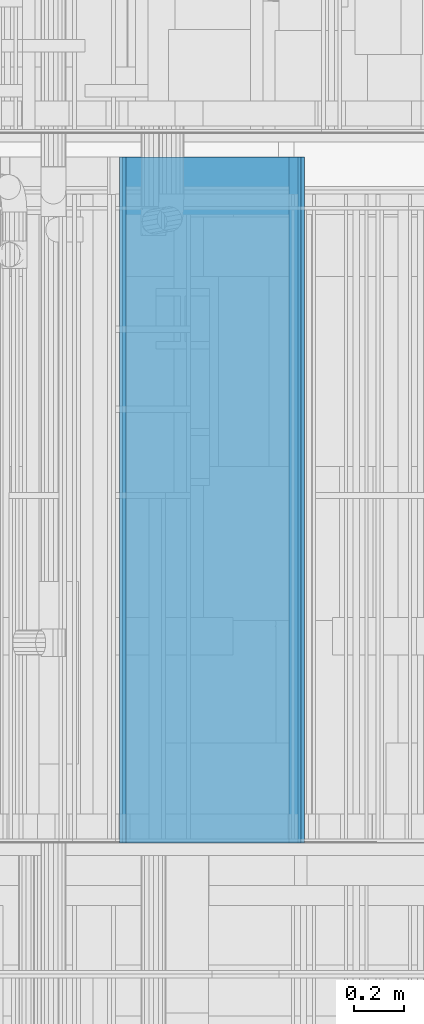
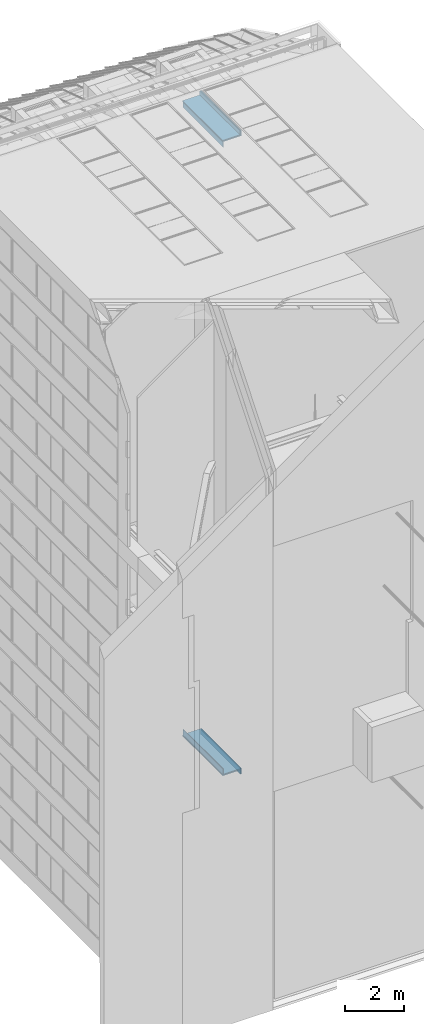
# One storey, part 121 of 583: 14 building element parts, 6 elements without a shape of their own.
"""IFC2X3 building model written with IfcOpenShell, lengths in metres."""

from ifc_helpers import new_model, entity, si_unit, converted_unit, derived_unit, money_unit, direction, frame, frame_2d, origin_with_axes, place, context, subcontext, project, spatial, polyline, rectangle, outline, extrude, material, type_object, element, aggregate, save


model = new_model("IFC2X3")

# Units and contexts
model_context = context("Model", 3, precision=1e-05, world=origin_with_axes(), true_north=direction((0.0, 1.0)))
body_context = subcontext(model_context, "Body", "Model", "MODEL_VIEW", scale=1.0)
ifc_project = project(units=[si_unit("LENGTHUNIT", "METRE"), si_unit("AREAUNIT", "SQUARE_METRE"), si_unit("VOLUMEUNIT", "CUBIC_METRE"), si_unit("ABSORBEDDOSEUNIT", "GRAY"), si_unit("AMOUNTOFSUBSTANCEUNIT", "MOLE"), si_unit("DOSEEQUIVALENTUNIT", "SIEVERT"), si_unit("ELECTRICCAPACITANCEUNIT", "FARAD"), si_unit("ELECTRICCHARGEUNIT", "COULOMB"), si_unit("ELECTRICCONDUCTANCEUNIT", "SIEMENS"), si_unit("ELECTRICCURRENTUNIT", "AMPERE"), si_unit("ELECTRICRESISTANCEUNIT", "OHM"), si_unit("ELECTRICVOLTAGEUNIT", "VOLT"), si_unit("ENERGYUNIT", "JOULE"), si_unit("FORCEUNIT", "NEWTON"), si_unit("FREQUENCYUNIT", "HERTZ"), si_unit("ILLUMINANCEUNIT", "LUX"), si_unit("INDUCTANCEUNIT", "HENRY"), si_unit("LUMINOUSFLUXUNIT", "LUMEN"), si_unit("LUMINOUSINTENSITYUNIT", "CANDELA"), si_unit("MAGNETICFLUXDENSITYUNIT", "TESLA"), si_unit("MAGNETICFLUXUNIT", "WEBER"), si_unit("MASSUNIT", "GRAM"), converted_unit("PLANEANGLEUNIT", "degree", entity("IfcReal", 0.0174532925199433), si_unit("PLANEANGLEUNIT", "RADIAN"), dimensions=[0, 0, 0, 0, 0, 0, 0]), si_unit("POWERUNIT", "WATT"), si_unit("PRESSUREUNIT", "PASCAL"), si_unit("RADIOACTIVITYUNIT", "BECQUEREL"), si_unit("SOLIDANGLEUNIT", "STERADIAN"), si_unit("THERMODYNAMICTEMPERATUREUNIT", "KELVIN"), si_unit("TIMEUNIT", "SECOND"), derived_unit("ACCELERATIONUNIT", [(si_unit("LENGTHUNIT", "METRE"), 1), (si_unit("TIMEUNIT", "SECOND"), -2)]), derived_unit("ANGULARVELOCITYUNIT", [(converted_unit("PLANEANGLEUNIT", "degree", entity("IfcReal", 0.0174532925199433), si_unit("PLANEANGLEUNIT", "RADIAN"), dimensions=[0, 0, 0, 0, 0, 0, 0]), 1), (si_unit("TIMEUNIT", "SECOND"), -1)]), derived_unit("CURVATUREUNIT", [(converted_unit("PLANEANGLEUNIT", "degree", entity("IfcReal", 0.0174532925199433), si_unit("PLANEANGLEUNIT", "RADIAN"), dimensions=[0, 0, 0, 0, 0, 0, 0]), 1), (si_unit("LENGTHUNIT", "METRE"), -1)]), derived_unit("DYNAMICVISCOSITYUNIT", [(si_unit("PRESSUREUNIT", "PASCAL"), 1), (si_unit("TIMEUNIT", "SECOND"), 1)]), derived_unit("HEATFLUXDENSITYUNIT", [(si_unit("POWERUNIT", "WATT"), 1), (si_unit("LENGTHUNIT", "METRE"), -2)]), derived_unit("HEATINGVALUEUNIT", [(si_unit("ENERGYUNIT", "JOULE"), 1), (si_unit("MASSUNIT", "GRAM"), -1)]), derived_unit("INTEGERCOUNTRATEUNIT", [(si_unit("TIMEUNIT", "SECOND"), -1)]), derived_unit("IONCONCENTRATIONUNIT", [(si_unit("MASSUNIT", "GRAM"), 1), (si_unit("VOLUMEUNIT", "CUBIC_METRE"), -1)]), derived_unit("ISOTHERMALMOISTURECAPACITYUNIT", [(si_unit("VOLUMEUNIT", "CUBIC_METRE"), 1), (si_unit("MASSUNIT", "GRAM"), -1)]), derived_unit("KINEMATICVISCOSITYUNIT", [(si_unit("AREAUNIT", "SQUARE_METRE"), 1), (si_unit("TIMEUNIT", "SECOND"), -1)]), derived_unit("LINEARFORCEUNIT", [(si_unit("FORCEUNIT", "NEWTON"), 1), (si_unit("LENGTHUNIT", "METRE"), -1)]), derived_unit("LINEARMOMENTUNIT", [(si_unit("FORCEUNIT", "NEWTON"), 1), (si_unit("LENGTHUNIT", "METRE"), -1)]), derived_unit("LINEARSTIFFNESSUNIT", [(si_unit("FORCEUNIT", "NEWTON"), 1), (si_unit("LENGTHUNIT", "METRE"), -1)]), derived_unit("LINEARVELOCITYUNIT", [(si_unit("LENGTHUNIT", "METRE"), 1), (si_unit("TIMEUNIT", "SECOND"), -1)]), derived_unit("LUMINOUSINTENSITYDISTRIBUTIONUNIT", [(si_unit("LUMINOUSINTENSITYUNIT", "CANDELA"), 1), (si_unit("LUMINOUSFLUXUNIT", "LUMEN"), -1)]), derived_unit("MASSDENSITYUNIT", [(si_unit("MASSUNIT", "GRAM"), 1), (si_unit("VOLUMEUNIT", "CUBIC_METRE"), -1)]), derived_unit("MASSFLOWRATEUNIT", [(si_unit("MASSUNIT", "GRAM"), 1), (si_unit("TIMEUNIT", "SECOND"), -1)]), derived_unit("MASSPERLENGTHUNIT", [(si_unit("MASSUNIT", "GRAM"), 1), (si_unit("LENGTHUNIT", "METRE"), -1)]), derived_unit("MODULUSOFELASTICITYUNIT", [(si_unit("FORCEUNIT", "NEWTON"), 1), (si_unit("AREAUNIT", "SQUARE_METRE"), -1)]), derived_unit("MODULUSOFLINEARSUBGRADEREACTIONUNIT", [(si_unit("FORCEUNIT", "NEWTON"), 1), (si_unit("LENGTHUNIT", "METRE"), -2)]), derived_unit("MODULUSOFROTATIONALSUBGRADEREACTIONUNIT", [(si_unit("FORCEUNIT", "NEWTON"), 1), (si_unit("LENGTHUNIT", "METRE"), 1)]), derived_unit("MODULUSOFSUBGRADEREACTIONUNIT", [(si_unit("FORCEUNIT", "NEWTON"), 1), (si_unit("VOLUMEUNIT", "CUBIC_METRE"), -1)]), derived_unit("MOISTUREDIFFUSIVITYUNIT", [(si_unit("VOLUMEUNIT", "CUBIC_METRE"), 1), (si_unit("TIMEUNIT", "SECOND"), -1)]), derived_unit("MOLECULARWEIGHTUNIT", [(si_unit("MASSUNIT", "GRAM"), 1), (si_unit("AMOUNTOFSUBSTANCEUNIT", "MOLE"), -1)]), derived_unit("PLANARFORCEUNIT", [(si_unit("FORCEUNIT", "NEWTON"), 1), (si_unit("LENGTHUNIT", "METRE"), -2)]), derived_unit("ROTATIONALFREQUENCYUNIT", [(si_unit("TIMEUNIT", "SECOND"), -1)]), derived_unit("ROTATIONALMASSUNIT", [(si_unit("MASSUNIT", "GRAM"), 1), (si_unit("LENGTHUNIT", "METRE"), 2)]), derived_unit("ROTATIONALSTIFFNESSUNIT", [(si_unit("FORCEUNIT", "NEWTON"), 1), (si_unit("LENGTHUNIT", "METRE"), 1), (converted_unit("PLANEANGLEUNIT", "degree", entity("IfcReal", 0.0174532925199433), si_unit("PLANEANGLEUNIT", "RADIAN"), dimensions=[0, 0, 0, 0, 0, 0, 0]), -1)]), derived_unit("SECTIONAREAINTEGRALUNIT", [(si_unit("LENGTHUNIT", "METRE"), 5)]), derived_unit("SECTIONMODULUSUNIT", [(si_unit("LENGTHUNIT", "METRE"), 3)]), derived_unit("SHEARMODULUSUNIT", [(si_unit("FORCEUNIT", "NEWTON"), 1), (si_unit("AREAUNIT", "SQUARE_METRE"), -1)]), derived_unit("SOUNDPOWERUNIT", [(si_unit("ENERGYUNIT", "JOULE"), 1), (si_unit("TIMEUNIT", "SECOND"), -1)]), derived_unit("SPECIFICHEATCAPACITYUNIT", [(si_unit("FORCEUNIT", "NEWTON"), 1), (si_unit("MASSUNIT", "GRAM"), -1), (si_unit("THERMODYNAMICTEMPERATUREUNIT", "KELVIN"), -1)]), derived_unit("TEMPERATUREGRADIENTUNIT", [(si_unit("THERMODYNAMICTEMPERATUREUNIT", "KELVIN"), 1), (si_unit("LENGTHUNIT", "METRE"), -1)]), derived_unit("THERMALADMITTANCEUNIT", [(si_unit("POWERUNIT", "WATT"), 1), (si_unit("AREAUNIT", "SQUARE_METRE"), -1), (si_unit("THERMODYNAMICTEMPERATUREUNIT", "KELVIN"), -1)]), derived_unit("THERMALCONDUCTANCEUNIT", [(si_unit("POWERUNIT", "WATT"), 1), (si_unit("LENGTHUNIT", "METRE"), -1), (si_unit("THERMODYNAMICTEMPERATUREUNIT", "KELVIN"), -1)]), derived_unit("THERMALEXPANSIONCOEFFICIENTUNIT", [(si_unit("THERMODYNAMICTEMPERATUREUNIT", "KELVIN"), -1)]), derived_unit("THERMALRESISTANCEUNIT", [(si_unit("AREAUNIT", "SQUARE_METRE"), 1), (si_unit("POWERUNIT", "WATT"), -1)]), derived_unit("THERMALTRANSMITTANCEUNIT", [(si_unit("POWERUNIT", "WATT"), 1), (si_unit("AREAUNIT", "SQUARE_METRE"), -1), (si_unit("THERMODYNAMICTEMPERATUREUNIT", "KELVIN"), -1)]), derived_unit("TORQUEUNIT", [(si_unit("FORCEUNIT", "NEWTON"), 1), (si_unit("LENGTHUNIT", "METRE"), 1)]), derived_unit("VAPORPERMEABILITYUNIT", [(si_unit("MASSUNIT", "GRAM"), 1), (si_unit("TIMEUNIT", "SECOND"), -1)]), derived_unit("VOLUMETRICFLOWRATEUNIT", [(si_unit("VOLUMEUNIT", "CUBIC_METRE"), 1), (si_unit("TIMEUNIT", "SECOND"), -1)]), derived_unit("WARPINGCONSTANTUNIT", [(si_unit("LENGTHUNIT", "METRE"), 6)]), derived_unit("WARPINGMOMENTUNIT", [(si_unit("FORCEUNIT", "NEWTON"), 1), (si_unit("LENGTHUNIT", "METRE"), 2)]), money_unit("GBP")], contexts=[model_context])

# Site, building, storey
site_placement = place(None, origin_with_axes())
site = spatial("IfcSite", under=ifc_project, at=site_placement, Name="Site", CompositionType="ELEMENT")
building_placement = place(site_placement, origin_with_axes())
building = spatial("IfcBuilding", under=site, at=building_placement, Name="Building01", CompositionType="ELEMENT")
storey_placement = place(building_placement, frame((0.0, 0.0, 20.78), z_axis=(0.0, 0.0, 1.0), x_axis=(1.0, 0.0, 0.0)))
storey = spatial("IfcBuildingStorey", under=building, at=storey_placement, Name="RL", CompositionType="ELEMENT", Elevation=20.78)

# Wall, building element part
wall_type = type_object("IfcWallType", Name="SHE_A-Walls_Type06f_ExternalWallInsulation_48+15mm", PredefinedType="NOTDEFINED")
wall_1_placement = place(storey_placement, frame((8.8, 12.13, -20.51), z_axis=(0.0, 1.0, 0.0), x_axis=(0.0, 0.0, 1.0)))
wall_1 = element("IfcWall", 1, at=wall_1_placement, inside=storey, type_object=wall_type, Name="6F", ObjectType="SHE_A-Walls_Type06f_ExternalWallInsulation_48+15mm")
ifc_material_1 = material(Name="A_BSUK_WallInternal_Finishes_Plasterboard")
building_element_part_1_placement = place(wall_1_placement, origin_with_axes())
building_element_part_1 = element("IfcBuildingElementPart", 2, at=building_element_part_1_placement, material=ifc_material_1, Name="3", context=body_context, shape_type="SweptSolid", body=[
    extrude(outline(polyline([(0.292178, 0.063), (0.048, 0.063), (0.048, 0.048), (0.277178, 0.048), (0.292178, 0.063)])), origin_with_axes(), (0.0, 0.0, 1.0), 2.74),
])
aggregate(wall_1, [building_element_part_1])

# Wall, building element parts
wall_2_placement = place(storey_placement, frame((9.51418, 12.13, -20.68), z_axis=(0.0, 1.0, 0.0), x_axis=(0.0, 0.0, 1.0)))
wall_2 = element("IfcWall", 3, at=wall_2_placement, inside=storey, type_object=wall_type, Name="6F", ObjectType="SHE_A-Walls_Type06f_ExternalWallInsulation_48+15mm")
ifc_material_2 = material(Name="A_BSUK_Insulation")
placement_1 = place(wall_2_placement, origin_with_axes())
building_element_part_2 = element("IfcBuildingElementPart", 4, at=placement_1, material=ifc_material_2, Name="1", context=body_context, shape_type="SweptSolid", body=[
    extrude(rectangle(XDim=0.17, YDim=0.036, at=frame_2d((0.085, 0.018), x_axis=(-1.0, 0.0))), origin_with_axes(), (0.0, 0.0, 1.0), 2.74),
])
building_element_part_3 = element("IfcBuildingElementPart", 5, at=placement_1, material=ifc_material_1, Name="3", context=body_context, shape_type="SweptSolid", body=[
    extrude(outline(polyline([(0.233, 0.063), (0.0, 0.063), (0.0, 0.048), (0.218, 0.048), (0.233, 0.063)])), origin_with_axes(), (0.0, 0.0, 1.0), 2.74),
])
building_element_part_4 = element("IfcBuildingElementPart", 6, at=placement_1, material=ifc_material_1, Name="4", context=body_context, shape_type="SweptSolid", body=[
    extrude(rectangle(XDim=0.206, YDim=0.012, at=frame_2d((0.103, 0.042), x_axis=(-1.0, 0.0))), origin_with_axes(), (0.0, 0.0, 1.0), 2.74),
])
aggregate(wall_2, [building_element_part_2, building_element_part_3, building_element_part_4])

wall_3_placement = place(storey_placement, frame((8.836, 12.13, -20.51), z_axis=(0.0, 1.0, 0.0), x_axis=(1.0, 0.0, 0.0)))
wall_3 = element("IfcWall", 7, at=wall_3_placement, inside=storey, type_object=wall_type, Name="6F", ObjectType="SHE_A-Walls_Type06f_ExternalWallInsulation_48+15mm")
placement_2 = place(wall_3_placement, origin_with_axes())
building_element_part_5 = element("IfcBuildingElementPart", 8, at=placement_2, material=ifc_material_2, Name="1", context=body_context, shape_type="SweptSolid", body=[
    extrude(rectangle(XDim=0.71418, YDim=0.036, at=frame_2d((0.35709, -0.018), x_axis=(-1.0, 0.0))), origin_with_axes(), (0.0, 0.0, 1.0), 2.74),
])
building_element_part_6 = element("IfcBuildingElementPart", 9, at=placement_2, material=ifc_material_1, Name="3", context=body_context, shape_type="SweptSolid", body=[
    extrude(outline(polyline([(0.72618, -0.048), (0.027, -0.048), (0.027, -0.063), (0.74118, -0.063), (0.72618, -0.048)])), origin_with_axes(), (0.0, 0.0, 1.0), 2.74),
])
building_element_part_7 = element("IfcBuildingElementPart", 10, at=placement_2, material=ifc_material_1, Name="4", context=body_context, shape_type="SweptSolid", body=[
    extrude(rectangle(XDim=0.72618, YDim=0.012, at=frame_2d((0.36309, -0.042), x_axis=(-1.0, 0.0))), origin_with_axes(), (0.0, 0.0, 1.0), 2.74),
])
aggregate(wall_3, [building_element_part_5, building_element_part_6, building_element_part_7])

# Wall, building element part
wall_4_placement = place(storey_placement, frame((8.8, 12.13, 5.929178), z_axis=(0.0, 1.0, 0.0), x_axis=(0.0, 0.0, 1.0)))
wall_4 = element("IfcWall", 11, at=wall_4_placement, inside=storey, type_object=wall_type, Name="6F", ObjectType="SHE_A-Walls_Type06f_ExternalWallInsulation_48+15mm")
building_element_part_8_placement = place(wall_4_placement, origin_with_axes())
building_element_part_8 = element("IfcBuildingElementPart", 12, at=building_element_part_8_placement, material=ifc_material_1, Name="3", context=body_context, shape_type="SweptSolid", body=[
    extrude(outline(polyline([(-0.277178, 0.048), (-0.048, 0.048), (-0.048, 0.063), (-0.292178, 0.063), (-0.277178, 0.048)])), origin_with_axes(), (0.0, 0.0, 1.0), 2.74),
])
aggregate(wall_4, [building_element_part_8])

# Wall, building element parts
wall_5_placement = place(storey_placement, frame((9.51418, 12.13, 6.099178), z_axis=(0.0, 1.0, 0.0), x_axis=(0.0, 0.0, 1.0)))
wall_5 = element("IfcWall", 13, at=wall_5_placement, inside=storey, type_object=wall_type, Name="6F", ObjectType="SHE_A-Walls_Type06f_ExternalWallInsulation_48+15mm")
placement_3 = place(wall_5_placement, origin_with_axes())
building_element_part_9 = element("IfcBuildingElementPart", 14, at=placement_3, material=ifc_material_2, Name="1", context=body_context, shape_type="SweptSolid", body=[
    extrude(rectangle(XDim=0.17, YDim=0.036, at=frame_2d((-0.085, 0.018), x_axis=(1.0, 0.0))), origin_with_axes(), (0.0, 0.0, 1.0), 2.74),
])
building_element_part_10 = element("IfcBuildingElementPart", 15, at=placement_3, material=ifc_material_1, Name="3", context=body_context, shape_type="SweptSolid", body=[
    extrude(outline(polyline([(-0.218, 0.048), (0.0, 0.048), (0.0, 0.063), (-0.233, 0.063), (-0.218, 0.048)])), origin_with_axes(), (0.0, 0.0, 1.0), 2.74),
])
building_element_part_11 = element("IfcBuildingElementPart", 16, at=placement_3, material=ifc_material_1, Name="4", context=body_context, shape_type="SweptSolid", body=[
    extrude(rectangle(XDim=0.206, YDim=0.012, at=frame_2d((-0.103, 0.042), x_axis=(1.0, 0.0))), origin_with_axes(), (0.0, 0.0, 1.0), 2.74),
])
aggregate(wall_5, [building_element_part_9, building_element_part_10, building_element_part_11])

wall_6_placement = place(storey_placement, frame((8.836, 12.13, 5.929178), z_axis=(0.0, 1.0, 0.0), x_axis=(-1.0, 0.0, 0.0)))
wall_6 = element("IfcWall", 17, at=wall_6_placement, inside=storey, type_object=wall_type, Name="6F", ObjectType="SHE_A-Walls_Type06f_ExternalWallInsulation_48+15mm")
placement_4 = place(wall_6_placement, origin_with_axes())
building_element_part_12 = element("IfcBuildingElementPart", 18, at=placement_4, material=ifc_material_2, Name="1", context=body_context, shape_type="SweptSolid", body=[
    extrude(rectangle(XDim=0.71418, YDim=0.036, at=frame_2d((-0.35709, -0.018), x_axis=(1.0, 0.0))), origin_with_axes(), (0.0, 0.0, 1.0), 2.74),
])
building_element_part_13 = element("IfcBuildingElementPart", 19, at=placement_4, material=ifc_material_1, Name="3", context=body_context, shape_type="SweptSolid", body=[
    extrude(outline(polyline([(-0.74118, -0.063), (-0.027, -0.063), (-0.027, -0.048), (-0.72618, -0.048), (-0.74118, -0.063)])), origin_with_axes(), (0.0, 0.0, 1.0), 2.74),
])
building_element_part_14 = element("IfcBuildingElementPart", 20, at=placement_4, material=ifc_material_1, Name="4", context=body_context, shape_type="SweptSolid", body=[
    extrude(rectangle(XDim=0.72618, YDim=0.012, at=frame_2d((-0.36309, -0.042), x_axis=(1.0, 0.0))), origin_with_axes(), (0.0, 0.0, 1.0), 2.74),
])
aggregate(wall_6, [building_element_part_12, building_element_part_13, building_element_part_14])

save(model, "model.ifc")
